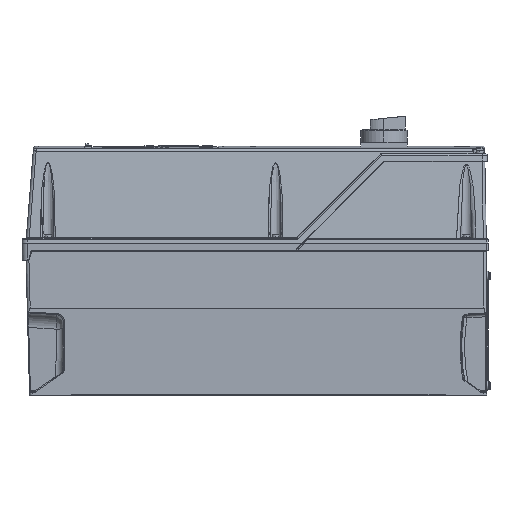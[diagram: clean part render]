
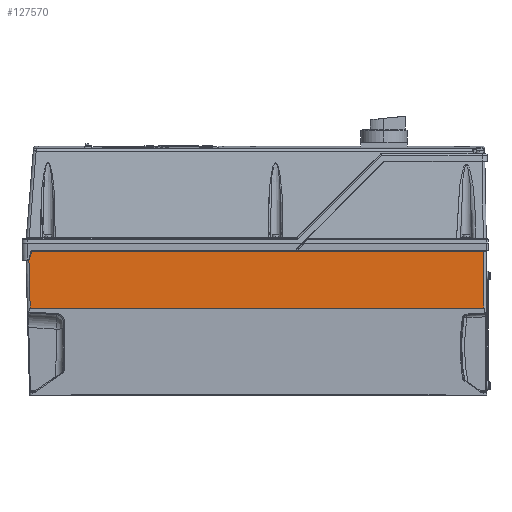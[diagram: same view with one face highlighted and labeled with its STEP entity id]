
A CAD part, left-side view. The second image highlights one B-rep face of the part: STEP entity #127570.
In plain terms, the highlighted planar face has unit normal (-1, 0, 0.024).
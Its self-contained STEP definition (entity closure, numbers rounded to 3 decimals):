
#545=DIRECTION('',(0.,1.,0.));
#546=VECTOR('',#545,469.893);
#547=CARTESIAN_POINT('',(-119.097,-235.,
-1.979));
#548=LINE('',#547,#546);
#24213=CARTESIAN_POINT('',(-120.515,233.374,
-60.));
#24215=DIRECTION('',(0.,-1.,0.));
#24216=VECTOR('',#24215,468.374);
#24217=CARTESIAN_POINT('',(-120.515,233.374,
-60.));
#24218=LINE('',#24217,#24216);
#30430=DIRECTION('',(0.024,0.,1.));
#30431=VECTOR('',#30430,58.039);
#30432=CARTESIAN_POINT('',(-120.515,-235.,
-60.));
#30433=LINE('',#30432,#30431);
#30434=DIRECTION('',(0.024,0.026,0.999));
#30435=VECTOR('',#30434,58.059);
#30436=CARTESIAN_POINT('',(-120.515,233.374,
-60.));
#30437=LINE('',#30436,#30435);
#60310=CARTESIAN_POINT('',(-119.097,234.893,
-1.979));
#60311=VERTEX_POINT('',#60310);
#60312=CARTESIAN_POINT('',(-119.097,-235.,
-1.979));
#60313=VERTEX_POINT('',#60312);
#60859=VERTEX_POINT('',#24213);
#60860=CARTESIAN_POINT('',(-120.515,-235.,
-60.));
#60861=VERTEX_POINT('',#60860);
#127559=CARTESIAN_POINT('',(-120.515,-238.,-60.));
#127560=DIRECTION('',(-1.,0.,0.024));
#127561=DIRECTION('',(0.024,0.,1.));
#127562=AXIS2_PLACEMENT_3D('',#127559,#127560,#127561);
#127563=PLANE('',#127562);
#127564=ORIENTED_EDGE('',*,*,#71367,.F.);
#127565=ORIENTED_EDGE('',*,*,#127552,.F.);
#127566=ORIENTED_EDGE('',*,*,#115179,.F.);
#127567=ORIENTED_EDGE('',*,*,#115069,.T.);
#127568=EDGE_LOOP('',(#127564,#127565,#127566,#127567));
#127569=FACE_OUTER_BOUND('',#127568,.F.);
#71367=EDGE_CURVE('',#60313,#60311,#548,.T.);
#115069=EDGE_CURVE('',#60859,#60311,#30437,.T.);
#115179=EDGE_CURVE('',#60859,#60861,#24218,.T.);
#127552=EDGE_CURVE('',#60861,#60313,#30433,.T.);
#127570=ADVANCED_FACE('',(#127569),#127563,.T.);
